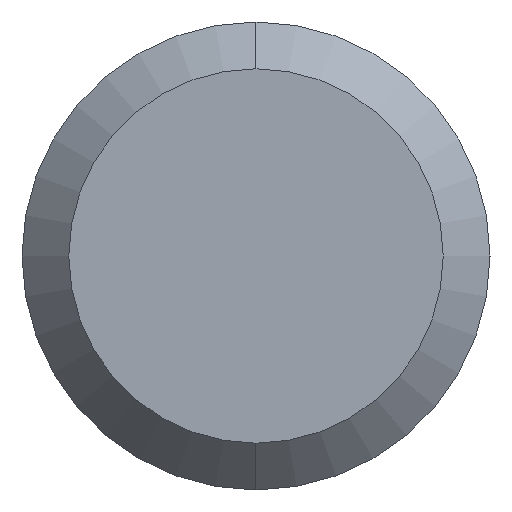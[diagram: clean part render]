
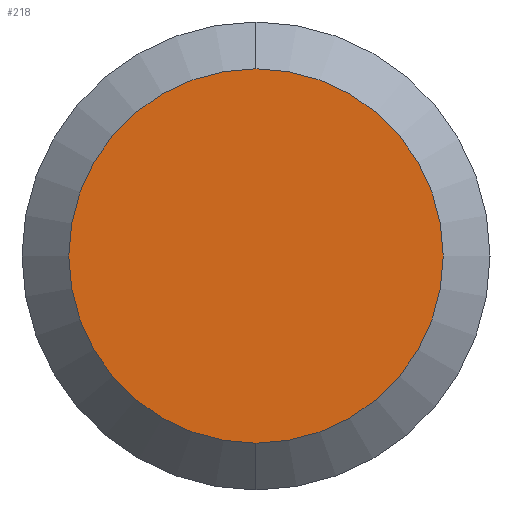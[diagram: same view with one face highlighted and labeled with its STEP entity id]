
A CAD part, left-side view. The second image highlights one B-rep face of the part: STEP entity #218.
In plain terms, the highlighted planar face has unit normal (-1, 0, 0).
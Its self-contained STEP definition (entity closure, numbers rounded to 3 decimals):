
#12 = CARTESIAN_POINT ( 'NONE',  ( 0., 0., 0. ) ) ;
#42 = CIRCLE ( 'NONE', #239, 1.6 ) ;
#58 = VERTEX_POINT ( 'NONE', #317 ) ;
#63 = AXIS2_PLACEMENT_3D ( 'NONE', #12, #232, #104 ) ;
#96 = VERTEX_POINT ( 'NONE', #389 ) ;
#102 = PLANE ( 'NONE',  #63 ) ;
#104 = DIRECTION ( 'NONE',  ( 0., 0., -1. ) ) ;
#107 = FACE_OUTER_BOUND ( 'NONE', #237, .T. ) ;
#115 = CARTESIAN_POINT ( 'NONE',  ( 0., 0., 0. ) ) ;
#137 = AXIS2_PLACEMENT_3D ( 'NONE', #409, #139, #144 ) ;
#139 = DIRECTION ( 'NONE',  ( -1., 0., 0. ) ) ;
#144 = DIRECTION ( 'NONE',  ( 0., 0., 1. ) ) ;
#192 = EDGE_CURVE ( 'NONE', #58, #96, #377, .T. ) ;
#218 = ADVANCED_FACE ( 'NONE', ( #107 ), #102, .F. ) ;
#232 = DIRECTION ( 'NONE',  ( 1., 0., 0. ) ) ;
#237 = EDGE_LOOP ( 'NONE', ( #457, #363 ) ) ;
#239 = AXIS2_PLACEMENT_3D ( 'NONE', #115, #422, #288 ) ;
#288 = DIRECTION ( 'NONE',  ( 0., 0., 1. ) ) ;
#317 = CARTESIAN_POINT ( 'NONE',  ( 0., 0., 1.6 ) ) ;
#344 = EDGE_CURVE ( 'NONE', #96, #58, #42, .T. ) ;
#363 = ORIENTED_EDGE ( 'NONE', *, *, #192, .T. ) ;
#377 = CIRCLE ( 'NONE', #137, 1.6 ) ;
#389 = CARTESIAN_POINT ( 'NONE',  ( 0., 0., -1.6 ) ) ;
#409 = CARTESIAN_POINT ( 'NONE',  ( 0., 0., 0. ) ) ;
#422 = DIRECTION ( 'NONE',  ( -1., 0., 0. ) ) ;
#457 = ORIENTED_EDGE ( 'NONE', *, *, #344, .T. ) ;
